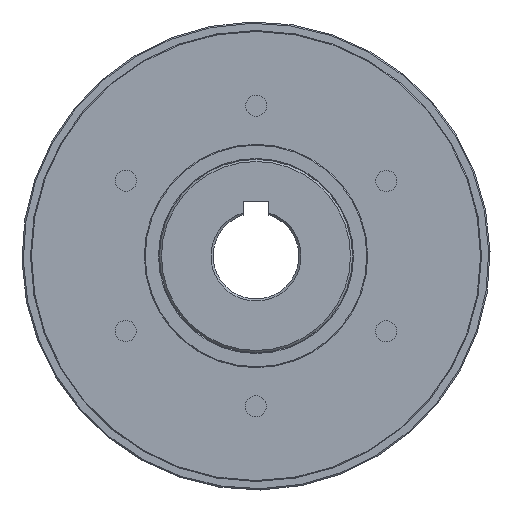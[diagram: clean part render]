
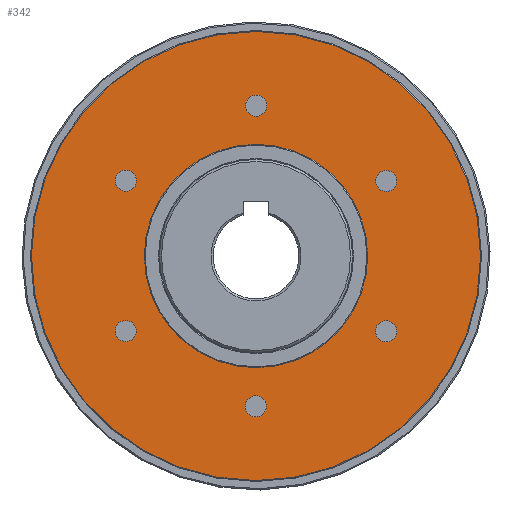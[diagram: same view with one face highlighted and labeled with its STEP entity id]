
A CAD part, left-side view. The second image highlights one B-rep face of the part: STEP entity #342.
In plain terms, the highlighted planar face has unit normal (-1, 0, 0).
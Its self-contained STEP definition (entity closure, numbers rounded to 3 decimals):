
#342 = ADVANCED_FACE( '', ( #704, #705, #706, #707, #708, #709, #710, #711 ), #712, .T. );
#704 = FACE_BOUND( '', #1109, .T. );
#705 = FACE_BOUND( '', #1110, .T. );
#706 = FACE_BOUND( '', #1111, .T. );
#707 = FACE_BOUND( '', #1112, .T. );
#708 = FACE_BOUND( '', #1113, .T. );
#709 = FACE_BOUND( '', #1114, .T. );
#710 = FACE_OUTER_BOUND( '', #1115, .T. );
#711 = FACE_BOUND( '', #1116, .T. );
#712 = PLANE( '', #1117 );
#1109 = EDGE_LOOP( '', ( #1614 ) );
#1110 = EDGE_LOOP( '', ( #1615 ) );
#1111 = EDGE_LOOP( '', ( #1616 ) );
#1112 = EDGE_LOOP( '', ( #1617 ) );
#1113 = EDGE_LOOP( '', ( #1618 ) );
#1114 = EDGE_LOOP( '', ( #1619 ) );
#1115 = EDGE_LOOP( '', ( #1620 ) );
#1116 = EDGE_LOOP( '', ( #1621 ) );
#1117 = AXIS2_PLACEMENT_3D( '', #1622, #1623, #1624 );
#1614 = ORIENTED_EDGE( '', *, *, #1934, .T. );
#1615 = ORIENTED_EDGE( '', *, *, #1979, .T. );
#1616 = ORIENTED_EDGE( '', *, *, #1896, .T. );
#1617 = ORIENTED_EDGE( '', *, *, #1998, .T. );
#1618 = ORIENTED_EDGE( '', *, *, #1999, .T. );
#1619 = ORIENTED_EDGE( '', *, *, #2000, .T. );
#1620 = ORIENTED_EDGE( '', *, *, #1890, .T. );
#1621 = ORIENTED_EDGE( '', *, *, #1913, .F. );
#1622 = CARTESIAN_POINT( '', ( 21.5, 0., 26. ) );
#1623 = DIRECTION( '', ( -1., 0., 0. ) );
#1624 = DIRECTION( '', ( 0., 0., 1. ) );
#1890 = EDGE_CURVE( '', #2116, #2116, #2117, .T. );
#1896 = EDGE_CURVE( '', #2126, #2126, #2127, .T. );
#1913 = EDGE_CURVE( '', #2154, #2154, #2155, .T. );
#1934 = EDGE_CURVE( '', #2189, #2189, #2190, .T. );
#1979 = EDGE_CURVE( '', #2256, #2256, #2257, .T. );
#1998 = EDGE_CURVE( '', #2280, #2280, #2281, .T. );
#1999 = EDGE_CURVE( '', #2282, #2282, #2283, .T. );
#2000 = EDGE_CURVE( '', #2284, #2284, #2285, .T. );
#2116 = VERTEX_POINT( '', #2568 );
#2117 = CIRCLE( '', #2569, 52.3 );
#2126 = VERTEX_POINT( '', #2578 );
#2127 = CIRCLE( '', #2579, 2.459 );
#2154 = VERTEX_POINT( '', #2610 );
#2155 = CIRCLE( '', #2611, 26. );
#2189 = VERTEX_POINT( '', #2659 );
#2190 = CIRCLE( '', #2660, 2.459 );
#2256 = VERTEX_POINT( '', #2788 );
#2257 = CIRCLE( '', #2789, 2.459 );
#2280 = VERTEX_POINT( '', #2874 );
#2281 = CIRCLE( '', #2875, 2.459 );
#2282 = VERTEX_POINT( '', #2876 );
#2283 = CIRCLE( '', #2877, 2.459 );
#2284 = VERTEX_POINT( '', #2878 );
#2285 = CIRCLE( '', #2879, 2.459 );
#2568 = CARTESIAN_POINT( '', ( 21.5, 0., 52.3 ) );
#2569 = AXIS2_PLACEMENT_3D( '', #3076, #3077, #3078 );
#2578 = CARTESIAN_POINT( '', ( 21.5, 0., -37.459 ) );
#2579 = AXIS2_PLACEMENT_3D( '', #3088, #3089, #3090 );
#2610 = CARTESIAN_POINT( '', ( 21.5, 0., 26. ) );
#2611 = AXIS2_PLACEMENT_3D( '', #3113, #3114, #3115 );
#2659 = CARTESIAN_POINT( '', ( 21.5, 32.44, 18.729 ) );
#2660 = AXIS2_PLACEMENT_3D( '', #3139, #3140, #3141 );
#2788 = CARTESIAN_POINT( '', ( 21.5, 32.44, -18.729 ) );
#2789 = AXIS2_PLACEMENT_3D( '', #3212, #3213, #3214 );
#2874 = CARTESIAN_POINT( '', ( 21.5, -32.44, -18.729 ) );
#2875 = AXIS2_PLACEMENT_3D( '', #3228, #3229, #3230 );
#2876 = CARTESIAN_POINT( '', ( 21.5, -32.44, 18.729 ) );
#2877 = AXIS2_PLACEMENT_3D( '', #3231, #3232, #3233 );
#2878 = CARTESIAN_POINT( '', ( 21.5, 0., 37.459 ) );
#2879 = AXIS2_PLACEMENT_3D( '', #3234, #3235, #3236 );
#3076 = CARTESIAN_POINT( '', ( 21.5, 0., 0. ) );
#3077 = DIRECTION( '', ( -1., 0., 0. ) );
#3078 = DIRECTION( '', ( 0., 0., 1. ) );
#3088 = CARTESIAN_POINT( '', ( 21.5, 0., -35. ) );
#3089 = DIRECTION( '', ( 1., 0., 0. ) );
#3090 = DIRECTION( '', ( 0., 0., -1. ) );
#3113 = CARTESIAN_POINT( '', ( 21.5, 0., 0. ) );
#3114 = DIRECTION( '', ( -1., 0., 0. ) );
#3115 = DIRECTION( '', ( 0., 0., 1. ) );
#3139 = CARTESIAN_POINT( '', ( 21.5, 30.311, 17.5 ) );
#3140 = DIRECTION( '', ( 1., 0., 0. ) );
#3141 = DIRECTION( '', ( 0., 0.866, 0.5 ) );
#3212 = CARTESIAN_POINT( '', ( 21.5, 30.311, -17.5 ) );
#3213 = DIRECTION( '', ( 1., 0., 0. ) );
#3214 = DIRECTION( '', ( 0., 0.866, -0.5 ) );
#3228 = CARTESIAN_POINT( '', ( 21.5, -30.311, -17.5 ) );
#3229 = DIRECTION( '', ( 1., 0., 0. ) );
#3230 = DIRECTION( '', ( 0., -0.866, -0.5 ) );
#3231 = CARTESIAN_POINT( '', ( 21.5, -30.311, 17.5 ) );
#3232 = DIRECTION( '', ( 1., 0., 0. ) );
#3233 = DIRECTION( '', ( 0., -0.866, 0.5 ) );
#3234 = CARTESIAN_POINT( '', ( 21.5, 0., 35. ) );
#3235 = DIRECTION( '', ( 1., 0., 0. ) );
#3236 = DIRECTION( '', ( 0., 0., 1. ) );
